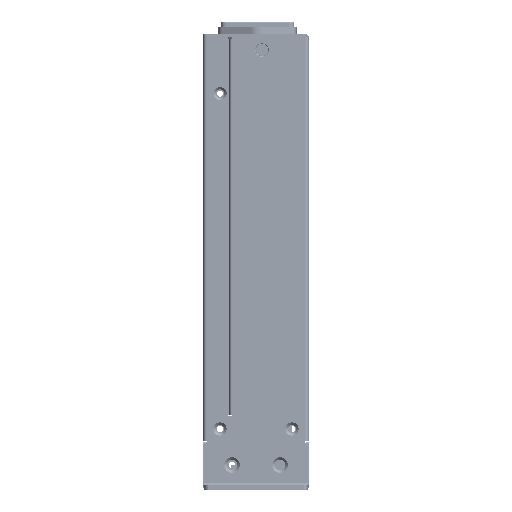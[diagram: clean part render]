
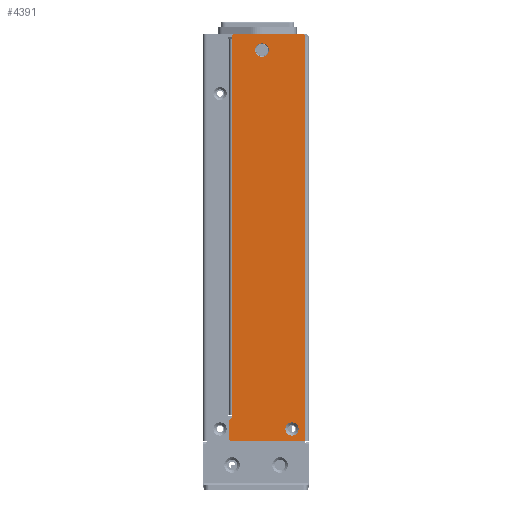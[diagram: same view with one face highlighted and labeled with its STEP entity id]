
A CAD part, left-side view. The second image highlights one B-rep face of the part: STEP entity #4391.
In plain terms, the highlighted planar face has unit normal (-1, 0, 0).
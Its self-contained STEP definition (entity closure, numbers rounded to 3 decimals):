
#656=DIRECTION('',(0.,0.,1.));
#657=VECTOR('',#656,168.3);
#658=CARTESIAN_POINT('',(-220.,1.4,-84.85));
#659=LINE('',#658,#657);
#745=CARTESIAN_POINT('',(-220.,19.5,78.15));
#746=DIRECTION('',(1.,0.,0.));
#747=DIRECTION('',(0.,0.,-1.));
#748=AXIS2_PLACEMENT_3D('',#745,#746,#747);
#750=CARTESIAN_POINT('',(-220.,19.5,78.15));
#751=DIRECTION('',(1.,0.,0.));
#752=DIRECTION('',(0.,0.,1.));
#753=AXIS2_PLACEMENT_3D('',#750,#751,#752);
#755=CARTESIAN_POINT('',(-220.,7.,-79.75));
#756=DIRECTION('',(1.,0.,0.));
#757=DIRECTION('',(0.,0.,1.));
#758=AXIS2_PLACEMENT_3D('',#755,#756,#757);
#760=CARTESIAN_POINT('',(-220.,7.,-79.75));
#761=DIRECTION('',(1.,0.,0.));
#762=DIRECTION('',(0.,0.,-1.));
#763=AXIS2_PLACEMENT_3D('',#760,#761,#762);
#765=CARTESIAN_POINT('',(-220.,32.2,-83.85));
#766=DIRECTION('',(-1.,0.,0.));
#767=DIRECTION('',(0.,1.,0.));
#768=AXIS2_PLACEMENT_3D('',#765,#766,#767);
#770=DIRECTION('',(0.,0.,1.));
#771=VECTOR('',#770,7.6);
#772=CARTESIAN_POINT('',(-220.,33.2,-83.85));
#773=LINE('',#772,#771);
#774=DIRECTION('',(0.,0.707,-0.707));
#775=VECTOR('',#774,1.697);
#776=CARTESIAN_POINT('',(-220.,32.,-75.05));
#777=LINE('',#776,#775);
#778=DIRECTION('',(0.,0.,-1.));
#779=VECTOR('',#778,1.2);
#780=CARTESIAN_POINT('',(-220.,32.,-73.85));
#781=LINE('',#780,#779);
#782=DIRECTION('',(0.,0.,-1.));
#783=VECTOR('',#782,1.);
#784=CARTESIAN_POINT('',(-220.,32.,83.85));
#785=LINE('',#784,#783);
#786=CARTESIAN_POINT('',(-220.,31.,83.85));
#787=DIRECTION('',(-1.,0.,0.));
#788=DIRECTION('',(0.,0.,1.));
#789=AXIS2_PLACEMENT_3D('',#786,#787,#788);
#791=DIRECTION('',(0.,1.,0.));
#792=VECTOR('',#791,28.6);
#793=CARTESIAN_POINT('',(-220.,2.4,84.85));
#794=LINE('',#793,#792);
#795=CARTESIAN_POINT('',(-220.,2.4,83.85));
#796=DIRECTION('',(-1.,0.,0.));
#797=DIRECTION('',(0.,-1.,0.));
#798=AXIS2_PLACEMENT_3D('',#795,#796,#797);
#800=DIRECTION('',(0.,0.,-1.));
#801=VECTOR('',#800,0.4);
#802=CARTESIAN_POINT('',(-220.,1.4,83.85));
#803=LINE('',#802,#801);
#1021=DIRECTION('',(0.,0.,1.));
#1022=VECTOR('',#1021,156.7);
#1023=CARTESIAN_POINT('',(-220.,32.,-73.85));
#1024=LINE('',#1023,#1022);
#1046=DIRECTION('',(0.,-1.,0.));
#1047=VECTOR('',#1046,30.8);
#1048=CARTESIAN_POINT('',(-220.,32.2,-84.85));
#1049=LINE('',#1048,#1047);
#2716=CARTESIAN_POINT('',(-220.,1.4,-84.85));
#2718=VERTEX_POINT('',#2716);
#2864=CARTESIAN_POINT('',(-220.,1.4,83.45));
#2866=VERTEX_POINT('',#2864);
#2880=CARTESIAN_POINT('',(-220.,1.4,83.85));
#2881=CARTESIAN_POINT('',(-220.,2.4,84.85));
#2882=VERTEX_POINT('',#2880);
#2883=VERTEX_POINT('',#2881);
#3040=CARTESIAN_POINT('',(-220.,19.5,75.35));
#3041=CARTESIAN_POINT('',(-220.,19.5,80.95));
#3042=VERTEX_POINT('',#3040);
#3043=VERTEX_POINT('',#3041);
#3108=CARTESIAN_POINT('',(-220.,32.,82.85));
#3109=VERTEX_POINT('',#3108);
#3110=CARTESIAN_POINT('',(-220.,32.,-73.85));
#3111=VERTEX_POINT('',#3110);
#3160=CARTESIAN_POINT('',(-220.,31.,84.85));
#3161=CARTESIAN_POINT('',(-220.,32.,83.85));
#3162=VERTEX_POINT('',#3160);
#3163=VERTEX_POINT('',#3161);
#3172=CARTESIAN_POINT('',(-220.,32.,-75.05));
#3173=VERTEX_POINT('',#3172);
#3174=CARTESIAN_POINT('',(-220.,33.2,-76.25));
#3175=VERTEX_POINT('',#3174);
#3240=CARTESIAN_POINT('',(-220.,7.,-77.));
#3241=CARTESIAN_POINT('',(-220.,7.,-82.5));
#3242=VERTEX_POINT('',#3240);
#3243=VERTEX_POINT('',#3241);
#3260=CARTESIAN_POINT('',(-220.,33.2,-83.85));
#3261=VERTEX_POINT('',#3260);
#3262=CARTESIAN_POINT('',(-220.,32.2,-84.85));
#3263=VERTEX_POINT('',#3262);
#4350=CARTESIAN_POINT('',(-220.,0.,84.85));
#4351=DIRECTION('',(-1.,0.,0.));
#4352=DIRECTION('',(0.,0.,1.));
#4353=AXIS2_PLACEMENT_3D('',#4350,#4351,#4352);
#4354=PLANE('',#4353);
#4356=ORIENTED_EDGE('',*,*,#4355,.F.);
#4358=ORIENTED_EDGE('',*,*,#4357,.T.);
#4360=ORIENTED_EDGE('',*,*,#4359,.F.);
#4362=ORIENTED_EDGE('',*,*,#4361,.F.);
#4364=ORIENTED_EDGE('',*,*,#4363,.T.);
#4366=ORIENTED_EDGE('',*,*,#4365,.F.);
#4368=ORIENTED_EDGE('',*,*,#4367,.F.);
#4370=ORIENTED_EDGE('',*,*,#4369,.F.);
#4372=ORIENTED_EDGE('',*,*,#4371,.F.);
#4374=ORIENTED_EDGE('',*,*,#4373,.T.);
#4375=ORIENTED_EDGE('',*,*,#4260,.F.);
#4377=ORIENTED_EDGE('',*,*,#4376,.F.);
#4378=EDGE_LOOP('',(#4356,#4358,#4360,#4362,#4364,#4366,#4368,#4370,#4372,#4374,
#4375,#4377));
#4379=FACE_OUTER_BOUND('',#4378,.F.);
#4381=ORIENTED_EDGE('',*,*,#4380,.F.);
#4383=ORIENTED_EDGE('',*,*,#4382,.F.);
#4384=EDGE_LOOP('',(#4381,#4383));
#4385=FACE_BOUND('',#4384,.F.);
#4386=ORIENTED_EDGE('',*,*,#4340,.F.);
#4388=ORIENTED_EDGE('',*,*,#4387,.F.);
#4389=EDGE_LOOP('',(#4386,#4388));
#4390=FACE_BOUND('',#4389,.F.);
#4391=ADVANCED_FACE('',(#4379,#4385,#4390),#4354,.T.);
#749=CIRCLE('',#748,2.8);
#754=CIRCLE('',#753,2.8);
#759=CIRCLE('',#758,2.75);
#764=CIRCLE('',#763,2.75);
#769=CIRCLE('',#768,1.);
#790=CIRCLE('',#789,1.);
#799=CIRCLE('',#798,1.);
#4260=EDGE_CURVE('',#2718,#2866,#659,.T.);
#4340=EDGE_CURVE('',#3042,#3043,#749,.T.);
#4355=EDGE_CURVE('',#3261,#3263,#769,.T.);
#4357=EDGE_CURVE('',#3261,#3175,#773,.T.);
#4359=EDGE_CURVE('',#3173,#3175,#777,.T.);
#4361=EDGE_CURVE('',#3111,#3173,#781,.T.);
#4363=EDGE_CURVE('',#3111,#3109,#1024,.T.);
#4365=EDGE_CURVE('',#3163,#3109,#785,.T.);
#4367=EDGE_CURVE('',#3162,#3163,#790,.T.);
#4369=EDGE_CURVE('',#2883,#3162,#794,.T.);
#4371=EDGE_CURVE('',#2882,#2883,#799,.T.);
#4373=EDGE_CURVE('',#2882,#2866,#803,.T.);
#4376=EDGE_CURVE('',#3263,#2718,#1049,.T.);
#4380=EDGE_CURVE('',#3242,#3243,#759,.T.);
#4382=EDGE_CURVE('',#3243,#3242,#764,.T.);
#4387=EDGE_CURVE('',#3043,#3042,#754,.T.);
